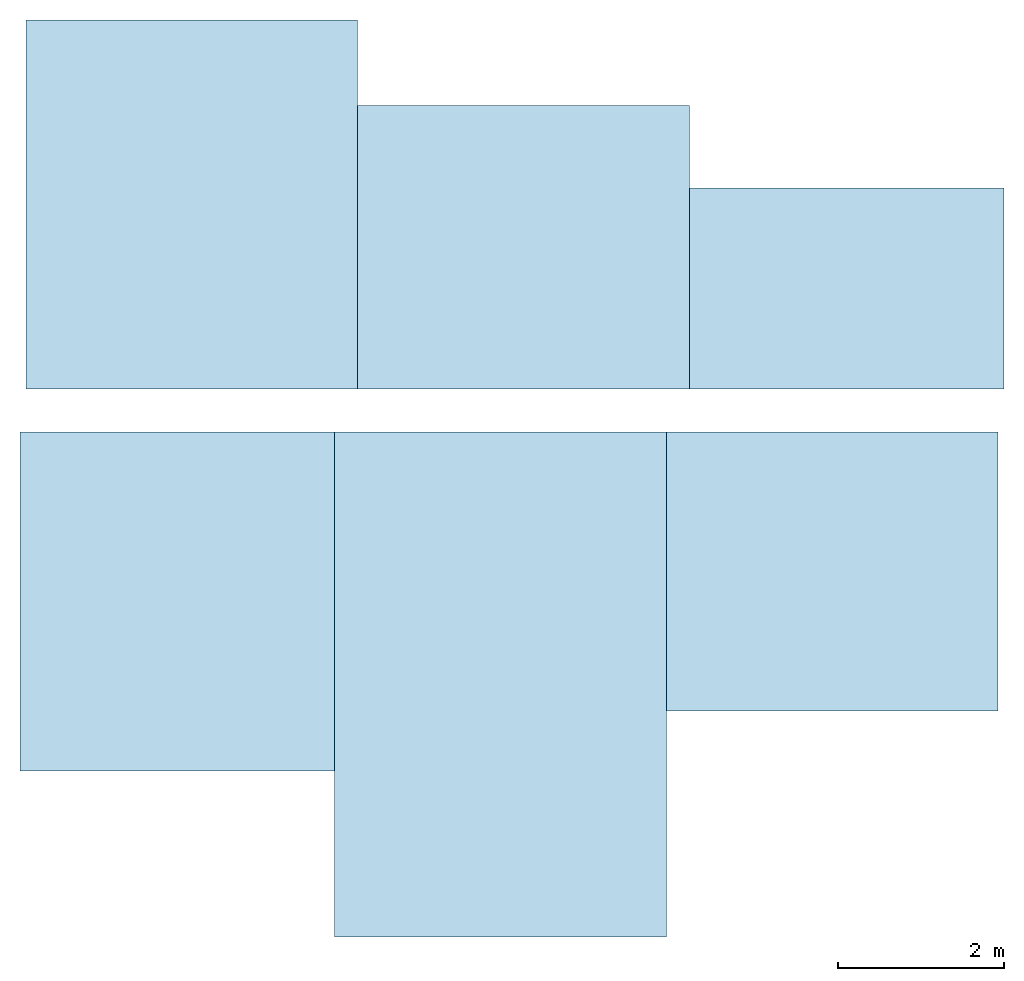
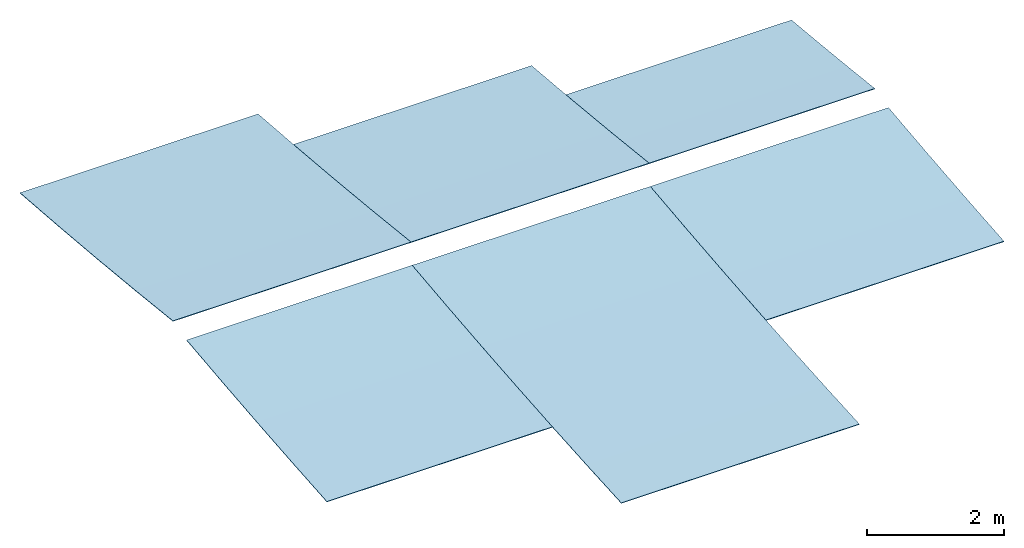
# One storey: 6 roofs.
"""IFC2X3 building model written with IfcOpenShell, lengths in metres."""

from ifc_helpers import new_model, entity, si_unit, converted_unit, derived_unit, direction, frame, origin, place, context, subcontext, project, spatial, faceted_brep, material, element, save


model = new_model("IFC2X3")

# Units and contexts
model_context = context("Model", 3, precision=1e-05, world=origin(), true_north=direction((6.12303176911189e-17, 1.0)))
body_context = subcontext(model_context, "Body", "Model", "MODEL_VIEW")
ifc_project = project(units=[si_unit("LENGTHUNIT", "METRE"), si_unit("AREAUNIT", "SQUARE_METRE"), si_unit("VOLUMEUNIT", "CUBIC_METRE"), converted_unit("PLANEANGLEUNIT", "DEGREE", entity("IfcRatioMeasure", 0.0174532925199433), si_unit("PLANEANGLEUNIT", "RADIAN"), dimensions=[0, 0, 0, 0, 0, 0, 0]), si_unit("MASSUNIT", "GRAM", prefix="KILO"), derived_unit("MASSDENSITYUNIT", [(si_unit("MASSUNIT", "GRAM", prefix="KILO"), 1), (si_unit("LENGTHUNIT", "METRE"), -3)]), si_unit("TIMEUNIT", "SECOND"), si_unit("FREQUENCYUNIT", "HERTZ"), si_unit("THERMODYNAMICTEMPERATUREUNIT", "DEGREE_CELSIUS"), derived_unit("THERMALTRANSMITTANCEUNIT", [(si_unit("MASSUNIT", "GRAM", prefix="KILO"), 1), (si_unit("THERMODYNAMICTEMPERATUREUNIT", "KELVIN"), -1), (si_unit("TIMEUNIT", "SECOND"), -3)]), derived_unit("VOLUMETRICFLOWRATEUNIT", [(si_unit("LENGTHUNIT", "METRE"), 3), (si_unit("TIMEUNIT", "SECOND"), -1)]), si_unit("ELECTRICCURRENTUNIT", "AMPERE"), si_unit("ELECTRICVOLTAGEUNIT", "VOLT"), si_unit("POWERUNIT", "WATT"), si_unit("FORCEUNIT", "NEWTON", prefix="KILO"), si_unit("ILLUMINANCEUNIT", "LUX"), si_unit("LUMINOUSFLUXUNIT", "LUMEN"), si_unit("LUMINOUSINTENSITYUNIT", "CANDELA"), derived_unit("USERDEFINED", [(si_unit("MASSUNIT", "GRAM", prefix="KILO"), -1), (si_unit("LENGTHUNIT", "METRE"), -2), (si_unit("TIMEUNIT", "SECOND"), 3), (si_unit("LUMINOUSFLUXUNIT", "LUMEN"), 1)]), derived_unit("LINEARVELOCITYUNIT", [(si_unit("LENGTHUNIT", "METRE"), 1), (si_unit("TIMEUNIT", "SECOND"), -1)]), si_unit("PRESSUREUNIT", "PASCAL"), derived_unit("USERDEFINED", [(si_unit("LENGTHUNIT", "METRE"), -2), (si_unit("MASSUNIT", "GRAM", prefix="KILO"), 1), (si_unit("TIMEUNIT", "SECOND"), -2)])], contexts=[model_context])

# Site, building, storey
site_placement = place(None, origin())
site = spatial("IfcSite", under=ifc_project, at=site_placement, Name="Surface", CompositionType="ELEMENT")
building_placement = place(site_placement, origin())
building = spatial("IfcBuilding", under=site, at=building_placement, Name="ExPREF", CompositionType="ELEMENT")
storey_placement = place(building_placement, frame((0.0, 0.0, 13.0)))
storey = spatial("IfcBuildingStorey", under=building, at=storey_placement, Name="Couverture", CompositionType="ELEMENT", Elevation=13.0)

# Roofs
ifc_material = material(Name="AA-toile tendue")
roof_1_placement = place(storey_placement, frame((29.3497436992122, -195.550986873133, -1.84563922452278)))
element("IfcRoof", 1, at=roof_1_placement, inside=storey, material=ifc_material, Name="Toit de base:Toit toile tendue", ObjectType="Toit de base:Toit toile tendue", ShapeType="NOTDEFINED", context=body_context, shape_type="Brep", body=[
    faceted_brep([(4.0, 6.08424174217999, 0.533708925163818), (4.0, 6.08424174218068, 0.543775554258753), (4.0, 5.07267207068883, 0.431559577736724), (4.0, 4.06010401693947, 0.328741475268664), (4.0, 3.04662488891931, 0.235330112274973), (4.0, 2.03232207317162, 0.151333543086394), (4.0, 1.01728302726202, 0.0767590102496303), (4.0, 0.00159527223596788, 0.0116129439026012), (4.0, 0.00159527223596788, 0.0015952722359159), (4.0, 1.01728267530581, 0.066735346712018), (4.0, 2.03232148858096, 0.141303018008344), (4.0, 3.04662420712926, 0.225291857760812), (4.0, 4.06010338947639, 0.318694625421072), (4.0, 5.07267166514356, 0.421503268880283), (0.0, 2.03232148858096, 0.141303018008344), (0.0, 1.01728267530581, 0.066735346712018), (0.0, 0.00159527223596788, 0.0015952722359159), (0.0, 0.00159527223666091, 0.0116129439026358), (0.0, 1.01728302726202, 0.0767590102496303), (0.0, 2.03232207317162, 0.151333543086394), (0.0, 3.04662488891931, 0.235330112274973), (0.0, 4.06010401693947, 0.328741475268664), (0.0, 5.07267207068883, 0.431559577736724), (0.0, 6.08424174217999, 0.543775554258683), (0.0, 6.08424174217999, 0.533708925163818), (0.0, 5.07267166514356, 0.421503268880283), (0.0, 4.06010338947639, 0.318694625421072), (0.0, 3.04662420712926, 0.225291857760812)], [[[0, 1, 2, 3, 4, 5, 6, 7, 8, 9, 10, 11, 12, 13]], [[14, 15, 16, 17, 18, 19, 20, 21, 22, 23, 24, 25, 26, 27]], [[22, 21, 3, 2]], [[23, 22, 2, 1]], [[20, 4, 3, 21]], [[18, 17, 7, 6]], [[19, 18, 6, 5]], [[19, 5, 4, 20]], [[8, 7, 17, 16]], [[9, 8, 16, 15]], [[10, 9, 15, 14]], [[11, 10, 14, 27]], [[13, 12, 26, 25]], [[0, 13, 25, 24]], [[27, 26, 12, 11]], [[1, 0, 24, 23]]]),
])
roof_2_placement = place(storey_placement, frame((29.6297436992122, -188.950989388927, -1.65484989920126)))
element("IfcRoof", 2, at=roof_2_placement, inside=storey, material=ifc_material, Name="Toit de base:Toit toile tendue", ObjectType="Toit de base:Toit toile tendue", ShapeType="NOTDEFINED", context=body_context, shape_type="Brep", body=[
    faceted_brep([(0.0, 0.00159527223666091, 0.3429195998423), (0.0, 0.00159527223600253, 0.352986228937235), (0.0, 1.14090318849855, 0.227275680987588), (0.0, 2.28146341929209, 0.11348627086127), (0.0, 3.42315123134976, 0.0116304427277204), (0.0, 3.42315123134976, 0.0015952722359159), (0.0, 2.28146363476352, 0.103441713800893), (0.0, 1.14090341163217, 0.217220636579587), (4.0, 2.28146341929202, 0.11348627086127), (4.0, 1.14090318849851, 0.227275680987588), (4.0, 0.00159527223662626, 0.352986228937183), (4.0, 0.00159527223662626, 0.3429195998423), (4.0, 1.14090341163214, 0.217220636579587), (4.0, 2.28146363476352, 0.103441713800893), (4.0, 3.42315123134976, 0.0015952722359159), (4.0, 3.42315123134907, 0.0116304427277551)], [[[0, 1, 2, 3, 4, 5, 6, 7]], [[8, 9, 10, 11, 12, 13, 14, 15]], [[10, 9, 2, 1]], [[9, 8, 3, 2]], [[8, 15, 4, 3]], [[5, 4, 15, 14]], [[14, 13, 6, 5]], [[13, 12, 7, 6]], [[12, 11, 0, 7]], [[1, 0, 11, 10]]]),
])
roof_3_placement = place(storey_placement, frame((33.3497436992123, -192.830174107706, -1.64982040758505)))
element("IfcRoof", 3, at=roof_3_placement, inside=storey, material=ifc_material, Name="Toit de base:Toit toile tendue", ObjectType="Toit de base:Toit toile tendue", ShapeType="NOTDEFINED", context=body_context, shape_type="Brep", body=[
    faceted_brep([(4.0, 3.3634289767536, 0.337890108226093), (4.0, 3.36342897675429, 0.347956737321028), (4.0, 2.24398944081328, 0.224335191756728), (4.0, 1.12333876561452, 0.112222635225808), (4.0, 0.00159527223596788, 0.0116309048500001), (4.0, 0.00159527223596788, 0.0015952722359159), (4.0, 1.12333855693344, 0.102177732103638), (4.0, 2.24398922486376, 0.214279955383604), (0.0, 1.12333876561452, 0.112222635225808), (0.0, 2.24398944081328, 0.224335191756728), (0.0, 3.3634289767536, 0.347956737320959), (0.0, 3.3634289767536, 0.337890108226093), (0.0, 2.24398922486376, 0.214279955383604), (0.0, 1.12333855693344, 0.102177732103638), (0.0, 0.00159527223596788, 0.0015952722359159), (0.0, 0.00159527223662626, 0.0116309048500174)], [[[0, 1, 2, 3, 4, 5, 6, 7]], [[8, 9, 10, 11, 12, 13, 14, 15]], [[10, 9, 2, 1]], [[9, 8, 3, 2]], [[8, 15, 4, 3]], [[5, 4, 15, 14]], [[14, 13, 6, 5]], [[13, 12, 7, 6]], [[12, 11, 0, 7]], [[1, 0, 11, 10]]]),
])
roof_4_placement = place(storey_placement, frame((25.559744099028, -193.54982555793, -1.7082374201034)))
element("IfcRoof", 4, at=roof_4_placement, inside=storey, material=ifc_material, Name="Toit de base:Toit toile tendue", ObjectType="Toit de base:Toit toile tendue", ShapeType="NOTDEFINED", context=body_context, shape_type="Brep", body=[
    faceted_brep([(3.78999960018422, 4.08308042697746, 0.396307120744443), (3.78999960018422, 4.08308042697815, 0.406373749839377), (3.78999960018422, 3.06413839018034, 0.293374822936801), (3.78999960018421, 2.04418401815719, 0.189911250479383), (3.78999960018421, 1.02330654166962, 0.0959920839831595), (3.78999960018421, 0.00159527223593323, 0.0116255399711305), (3.78999960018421, 0.00159527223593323, 0.0015952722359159), (3.78999960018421, 1.02330629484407, 0.0859540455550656), (3.78999960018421, 2.04418367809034, 0.179864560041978), (3.78999960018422, 3.06413812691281, 0.283318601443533), (0.0, 1.02330629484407, 0.0859540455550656), (0.0, 0.00159527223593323, 0.0015952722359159), (0.0, 0.00159527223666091, 0.0116255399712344), (0.0, 1.02330654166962, 0.0959920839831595), (0.0, 2.04418401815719, 0.189911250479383), (0.0, 3.06413839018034, 0.293374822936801), (0.0, 4.08308042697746, 0.406373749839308), (0.0, 4.08308042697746, 0.396307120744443), (0.0, 3.06413812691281, 0.283318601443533), (0.0, 2.04418367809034, 0.179864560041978)], [[[0, 1, 2, 3, 4, 5, 6, 7, 8, 9]], [[10, 11, 12, 13, 14, 15, 16, 17, 18, 19]], [[16, 15, 2, 1]], [[3, 2, 15, 14]], [[13, 12, 5, 4]], [[14, 13, 4, 3]], [[6, 5, 12, 11]], [[11, 10, 7, 6]], [[8, 7, 10, 19]], [[18, 17, 0, 9]], [[18, 9, 8, 19]], [[1, 0, 17, 16]]]),
])
roof_5_placement = place(storey_placement, frame((25.6297436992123, -188.950989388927, -1.73633947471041)))
element("IfcRoof", 5, at=roof_5_placement, inside=storey, material=ifc_material, Name="Toit de base:Toit toile tendue", ObjectType="Toit de base:Toit toile tendue", ShapeType="NOTDEFINED", context=body_context, shape_type="Brep", body=[
    faceted_brep([(0.0, 0.00159527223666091, 0.424409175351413), (0.0, 0.00159527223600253, 0.434475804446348), (0.0, 1.11253613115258, 0.311748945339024), (0.0, 2.22467070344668, 0.200356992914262), (0.0, 3.33788334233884, 0.100311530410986), (0.0, 4.45205828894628, 0.0116229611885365), (0.0, 4.45205828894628, 0.0015952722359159), (0.0, 3.33788362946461, 0.0902756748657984), (0.0, 2.22467110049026, 0.190311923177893), (0.0, 1.11253643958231, 0.301693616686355), (4.0, 3.33788362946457, 0.0902756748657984), (4.0, 4.45205828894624, 0.0015952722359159), (4.0, 4.45205828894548, 0.0116229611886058), (4.0, 3.3378833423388, 0.100311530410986), (4.0, 2.22467070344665, 0.200356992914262), (4.0, 1.11253613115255, 0.311748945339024), (4.0, 0.00159527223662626, 0.434475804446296), (4.0, 0.00159527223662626, 0.424409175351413), (4.0, 1.11253643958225, 0.301693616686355), (4.0, 2.22467110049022, 0.190311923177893)], [[[0, 1, 2, 3, 4, 5, 6, 7, 8, 9]], [[10, 11, 12, 13, 14, 15, 16, 17, 18, 19]], [[16, 15, 2, 1]], [[3, 2, 15, 14]], [[13, 12, 5, 4]], [[14, 13, 4, 3]], [[6, 5, 12, 11]], [[11, 10, 7, 6]], [[8, 7, 10, 19]], [[18, 17, 0, 9]], [[18, 9, 8, 19]], [[1, 0, 17, 16]]]),
])
roof_6_placement = place(storey_placement, frame((33.6297436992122, -188.950989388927, -1.56646918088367)))
element("IfcRoof", 6, at=roof_6_placement, inside=storey, material=ifc_material, Name="Toit de base:Toit toile tendue", ObjectType="Toit de base:Toit toile tendue", ShapeType="NOTDEFINED", context=body_context, shape_type="Brep", body=[
    faceted_brep([(0.0, 0.00159527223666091, 0.254538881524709), (0.0, 0.00159527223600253, 0.264605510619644), (0.0, 0.808763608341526, 0.174297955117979), (0.0, 1.61657897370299, 0.0899740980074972), (0.0, 2.42499701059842, 0.0116385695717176), (0.0, 2.42499701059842, 0.0015952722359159), (0.0, 1.61657908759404, 0.079923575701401), (0.0, 0.808763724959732, 0.164239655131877), (3.79000039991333, 1.61657897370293, 0.0899740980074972), (3.79000039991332, 0.808763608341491, 0.174297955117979), (3.79000039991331, 0.00159527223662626, 0.264605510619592), (3.79000039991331, 0.00159527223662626, 0.254538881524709), (3.79000039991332, 0.808763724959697, 0.164239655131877), (3.79000039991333, 1.616579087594, 0.079923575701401), (3.79000039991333, 2.42499701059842, 0.0015952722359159), (3.79000039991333, 2.42499701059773, 0.0116385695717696)], [[[0, 1, 2, 3, 4, 5, 6, 7]], [[8, 9, 10, 11, 12, 13, 14, 15]], [[10, 9, 2, 1]], [[9, 8, 3, 2]], [[8, 15, 4, 3]], [[5, 4, 15, 14]], [[14, 13, 6, 5]], [[13, 12, 7, 6]], [[12, 11, 0, 7]], [[1, 0, 11, 10]]]),
])

save(model, "model.ifc")
